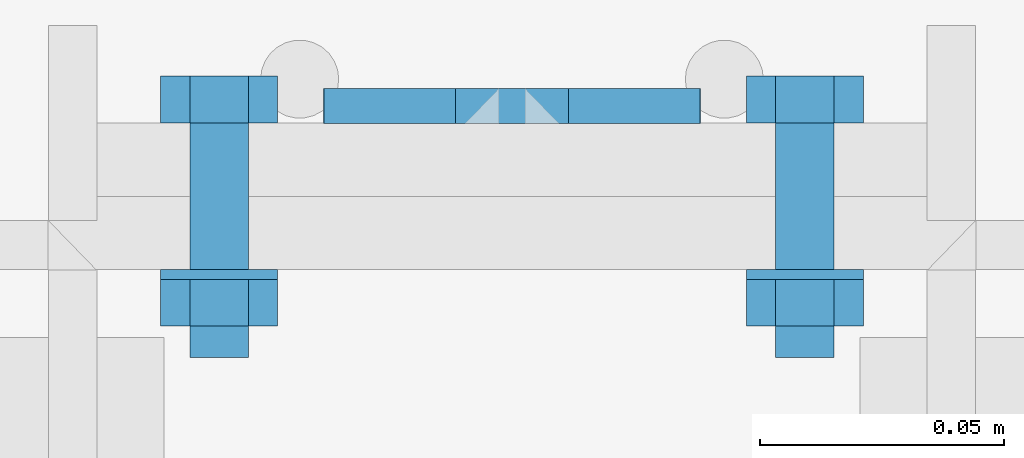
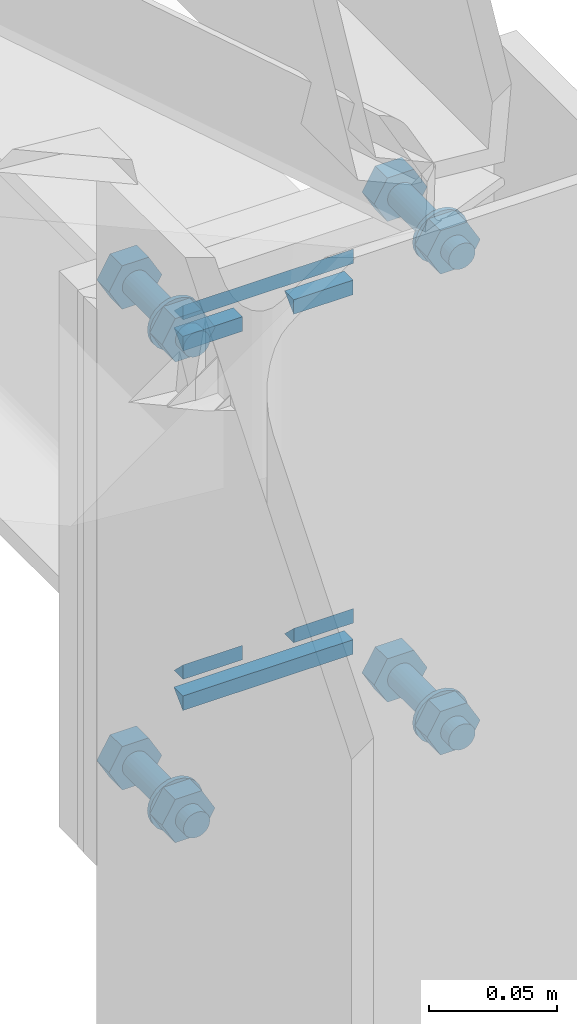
# One storey, part 98 of 251: 16 mechanical fasteners, 12 fasteners.
"""IFC4 building model written with IfcOpenShell, lengths in metres."""

from ifc_helpers import new_model, si_unit, frame, origin_with_axes, place, context, project, spatial, polyline, outline, extrude, type_object, element, save


model = new_model("IFC4")

# Units and contexts
model_context = context("Model", 3, precision=1e-05, world=origin_with_axes())
ifc_project = project(units=[si_unit("LENGTHUNIT", "METRE"), si_unit("AREAUNIT", "SQUARE_METRE"), si_unit("VOLUMEUNIT", "CUBIC_METRE"), si_unit("MASSUNIT", "GRAM", prefix="KILO"), si_unit("TIMEUNIT", "SECOND"), si_unit("PLANEANGLEUNIT", "RADIAN"), si_unit("SOLIDANGLEUNIT", "STERADIAN"), si_unit("THERMODYNAMICTEMPERATUREUNIT", "DEGREE_CELSIUS")], contexts=[model_context])

# Site, building, storey
placement_1 = place(None, origin_with_axes())
site = spatial("IfcSite", under=ifc_project, at=placement_1, Name="Italia", CompositionType="ELEMENT")
building = spatial("IfcBuilding", under=site, at=placement_1, Name="Deposito", CompositionType="ELEMENT")
storey = spatial("IfcBuildingStorey", under=building, at=placement_1, Name="Storey 0", CompositionType="ELEMENT", Elevation=0.0)

# Fasteners
fastener_type_1 = type_object("IfcFastenerType", Name="Collegamenti -064_-065 -065_-064 -065_-066 -066_-065 -066_-067 -067_-066 -067_-068 -068_-067", PredefinedType="WELD")
placement_2 = place(placement_1, origin_with_axes())
fastener_1_placement = place(placement_2, origin_with_axes())
element("IfcFastener", 1, at=fastener_1_placement, inside=storey, type_object=fastener_type_1, Name="Collegamenti -064_-065 -065_-064 -065_-066 -066_-065 -066_-067 -067_-066 -067_-068 -068_-067", context=model_context, shape_type="SweptSolid", body=[
    extrude(outline(polyline([(0.0, 0.0), (0.00717336, -0.00695801), (0.0, -0.00695801), (0.0, 0.0)])), frame((19.9615, 0.12995, 5.89691), z_axis=(1.0, 0.0, 0.0), x_axis=(0.0, 1.0, 0.0)), (0.0, 0.0, 1.0), 0.0770988),
])
fastener_type_2 = type_object("IfcFastenerType", Name="Collegamenti -064_-065 -065_-064 -065_-066 -066_-065 -066_-067 -067_-066 -067_-068 -068_-067", PredefinedType="WELD")
fastener_2_placement = place(placement_2, origin_with_axes())
element("IfcFastener", 2, at=fastener_2_placement, inside=storey, type_object=fastener_type_2, Name="Collegamenti -064_-065 -065_-064 -065_-066 -066_-065 -066_-067 -067_-066 -067_-068 -068_-067", context=model_context, shape_type="SweptSolid", body=[
    extrude(outline(polyline([(0.0, 0.0), (-0.00717336, 0.00695801), (0.0, 0.00695801), (0.0, 0.0)])), frame((19.9884, 0.12995, 5.87509), z_axis=(-1.0, 0.0, 0.0), x_axis=(0.0, -1.0, 0.0)), (0.0, 0.0, 1.0), 0.0269508),
])
fastener_type_3 = type_object("IfcFastenerType", Name="Collegamenti -064_-065 -065_-064 -065_-066 -066_-065 -066_-067 -067_-066 -067_-068 -068_-067", PredefinedType="WELD")
fastener_3_placement = place(placement_2, origin_with_axes())
element("IfcFastener", 3, at=fastener_3_placement, inside=storey, type_object=fastener_type_3, Name="Collegamenti -064_-065 -065_-064 -065_-066 -066_-065 -066_-067 -067_-066 -067_-068 -068_-067", context=model_context, shape_type="SweptSolid", body=[
    extrude(outline(polyline([(0.0, 0.0), (0.00717336, -0.00695801), (0.0, -0.00695801), (0.0, 0.0)])), frame((19.9615, 0.12995, 5.72491), z_axis=(1.0, 0.0, 0.0), x_axis=(0.0, 1.0, 0.0)), (0.0, 0.0, 1.0), 0.0269508),
])
fastener_type_4 = type_object("IfcFastenerType", Name="Collegamenti -064_-065 -065_-064 -065_-066 -066_-065 -066_-067 -067_-066 -067_-068 -068_-067", PredefinedType="WELD")
fastener_4_placement = place(placement_2, origin_with_axes())
element("IfcFastener", 4, at=fastener_4_placement, inside=storey, type_object=fastener_type_4, Name="Collegamenti -064_-065 -065_-064 -065_-066 -066_-065 -066_-067 -067_-066 -067_-068 -068_-067", context=model_context, shape_type="SweptSolid", body=[
    extrude(outline(polyline([(0.0, 0.0), (-0.00717336, 0.00695801), (0.0, 0.00695801), (0.0, 0.0)])), frame((20.0385, 0.12995, 5.70309), z_axis=(-1.0, 0.0, 0.0), x_axis=(0.0, -1.0, 0.0)), (0.0, 0.0, 1.0), 0.0770988),
])
fastener_type_5 = type_object("IfcFastenerType", Name="Collegamenti -064_-065 -065_-064 -065_-066 -066_-065 -066_-067 -067_-066 -067_-068 -068_-067", PredefinedType="WELD")
fastener_5_placement = place(placement_2, origin_with_axes())
element("IfcFastener", 5, at=fastener_5_placement, inside=storey, type_object=fastener_type_5, Name="Collegamenti -064_-065 -065_-064 -065_-066 -066_-065 -066_-067 -067_-066 -067_-068 -068_-067", context=model_context, shape_type="SweptSolid", body=[
    extrude(outline(polyline([(0.0, 0.0), (0.00717336, -0.00695801), (0.0, -0.00695801), (0.0, 0.0)])), frame((20.0116, 0.12995, 5.72491), z_axis=(1.0, 0.0, 0.0), x_axis=(0.0, 1.0, 0.0)), (0.0, 0.0, 1.0), 0.0269508),
])
fastener_type_6 = type_object("IfcFastenerType", Name="Collegamenti -064_-065 -065_-064 -065_-066 -066_-065 -066_-067 -067_-066 -067_-068 -068_-067", PredefinedType="WELD")
fastener_6_placement = place(placement_2, origin_with_axes())
element("IfcFastener", 6, at=fastener_6_placement, inside=storey, type_object=fastener_type_6, Name="Collegamenti -064_-065 -065_-064 -065_-066 -066_-065 -066_-067 -067_-066 -067_-068 -068_-067", context=model_context, shape_type="SweptSolid", body=[
    extrude(outline(polyline([(0.0, 0.0), (-0.00717336, 0.00695801), (0.0, 0.00695801), (0.0, 0.0)])), frame((20.0385, 0.12995, 5.87509), z_axis=(-1.0, 0.0, 0.0), x_axis=(0.0, -1.0, 0.0)), (0.0, 0.0, 1.0), 0.0269508),
])
fastener_type_7 = type_object("IfcFastenerType", Name="Collegamenti -064_-065 -065_-064 -065_-066 -066_-065 -066_-067 -067_-066 -067_-068 -068_-067", PredefinedType="WELD")
fastener_7_placement = place(placement_2, origin_with_axes())
element("IfcFastener", 7, at=fastener_7_placement, inside=storey, type_object=fastener_type_7, Name="Collegamenti -064_-065 -065_-064 -065_-066 -066_-065 -066_-067 -067_-066 -067_-068 -068_-067", context=model_context, shape_type="SweptSolid", body=[
    extrude(outline(polyline([(0.0, 0.0), (0.00717336, -0.00695801), (0.0, -0.00695801), (0.0, 0.0)])), frame((19.9615, 0.12995, 5.89691), z_axis=(1.0, 0.0, 0.0), x_axis=(0.0, 1.0, 0.0)), (0.0, 0.0, 1.0), 0.0770988),
])
fastener_type_8 = type_object("IfcFastenerType", Name="Collegamenti -064_-065 -065_-064 -065_-066 -066_-065 -066_-067 -067_-066 -067_-068 -068_-067", PredefinedType="WELD")
fastener_8_placement = place(placement_2, origin_with_axes())
element("IfcFastener", 8, at=fastener_8_placement, inside=storey, type_object=fastener_type_8, Name="Collegamenti -064_-065 -065_-064 -065_-066 -066_-065 -066_-067 -067_-066 -067_-068 -068_-067", context=model_context, shape_type="SweptSolid", body=[
    extrude(outline(polyline([(0.0, 0.0), (-0.00717336, 0.00695801), (0.0, 0.00695801), (0.0, 0.0)])), frame((19.9884, 0.12995, 5.87509), z_axis=(-1.0, 0.0, 0.0), x_axis=(0.0, -1.0, 0.0)), (0.0, 0.0, 1.0), 0.0269508),
])
fastener_type_9 = type_object("IfcFastenerType", Name="Collegamenti -064_-065 -065_-064 -065_-066 -066_-065 -066_-067 -067_-066 -067_-068 -068_-067", PredefinedType="WELD")
fastener_9_placement = place(placement_2, origin_with_axes())
element("IfcFastener", 9, at=fastener_9_placement, inside=storey, type_object=fastener_type_9, Name="Collegamenti -064_-065 -065_-064 -065_-066 -066_-065 -066_-067 -067_-066 -067_-068 -068_-067", context=model_context, shape_type="SweptSolid", body=[
    extrude(outline(polyline([(0.0, 0.0), (0.00717336, -0.00695801), (0.0, -0.00695801), (0.0, 0.0)])), frame((19.9615, 0.12995, 5.72491), z_axis=(1.0, 0.0, 0.0), x_axis=(0.0, 1.0, 0.0)), (0.0, 0.0, 1.0), 0.0269508),
])
fastener_type_10 = type_object("IfcFastenerType", Name="Collegamenti -064_-065 -065_-064 -065_-066 -066_-065 -066_-067 -067_-066 -067_-068 -068_-067", PredefinedType="WELD")
fastener_10_placement = place(placement_2, origin_with_axes())
element("IfcFastener", 10, at=fastener_10_placement, inside=storey, type_object=fastener_type_10, Name="Collegamenti -064_-065 -065_-064 -065_-066 -066_-065 -066_-067 -067_-066 -067_-068 -068_-067", context=model_context, shape_type="SweptSolid", body=[
    extrude(outline(polyline([(0.0, 0.0), (-0.00717336, 0.00695801), (0.0, 0.00695801), (0.0, 0.0)])), frame((20.0385, 0.12995, 5.70309), z_axis=(-1.0, 0.0, 0.0), x_axis=(0.0, -1.0, 0.0)), (0.0, 0.0, 1.0), 0.0770988),
])
fastener_type_11 = type_object("IfcFastenerType", Name="Collegamenti -064_-065 -065_-064 -065_-066 -066_-065 -066_-067 -067_-066 -067_-068 -068_-067", PredefinedType="WELD")
fastener_11_placement = place(placement_2, origin_with_axes())
element("IfcFastener", 11, at=fastener_11_placement, inside=storey, type_object=fastener_type_11, Name="Collegamenti -064_-065 -065_-064 -065_-066 -066_-065 -066_-067 -067_-066 -067_-068 -068_-067", context=model_context, shape_type="SweptSolid", body=[
    extrude(outline(polyline([(0.0, 0.0), (0.00717336, -0.00695801), (0.0, -0.00695801), (0.0, 0.0)])), frame((20.0116, 0.12995, 5.72491), z_axis=(1.0, 0.0, 0.0), x_axis=(0.0, 1.0, 0.0)), (0.0, 0.0, 1.0), 0.0269508),
])
fastener_type_12 = type_object("IfcFastenerType", Name="Collegamenti -064_-065 -065_-064 -065_-066 -066_-065 -066_-067 -067_-066 -067_-068 -068_-067", PredefinedType="WELD")
fastener_12_placement = place(placement_2, origin_with_axes())
element("IfcFastener", 12, at=fastener_12_placement, inside=storey, type_object=fastener_type_12, Name="Collegamenti -064_-065 -065_-064 -065_-066 -066_-065 -066_-067 -067_-066 -067_-068 -068_-067", context=model_context, shape_type="SweptSolid", body=[
    extrude(outline(polyline([(0.0, 0.0), (-0.00717336, 0.00695801), (0.0, 0.00695801), (0.0, 0.0)])), frame((20.0385, 0.12995, 5.87509), z_axis=(-1.0, 0.0, 0.0), x_axis=(0.0, -1.0, 0.0)), (0.0, 0.0, 1.0), 0.0269508),
])

# Mechanical fasteners
mechanical_fastener_type_1 = type_object("IfcMechanicalFastenerType", Name="Collegamenti -064_-065 -065_-064 -065_-066 -066_-065 -066_-067 -067_-066 -067_-068 -068_-067", PredefinedType="BOLT")
mechanical_fastener_1_placement = place(placement_2, origin_with_axes())
element("IfcMechanicalFastener", 13, at=mechanical_fastener_1_placement, inside=storey, type_object=mechanical_fastener_type_1, Name="Collegamenti -064_-065 -065_-064 -065_-066 -066_-065 -066_-067 -067_-066 -067_-068 -068_-067", NominalDiameter=0.0119991, context=model_context, shape_type="SweptSolid", body=[
    extrude(outline(polyline([(0.0, 0.0), (-0.0119991, 0.0), (-0.0179996, 0.0103927), (-0.0119991, 0.0207849), (0.0, 0.0207849), (0.00600052, 0.0103927), (0.0, 0.0)])), frame((20.054, 0.13, 5.67461), z_axis=(0.0, 1.0, 0.0), x_axis=(-1.0, 0.0, 0.0)), (0.0, 0.0, 1.0), 0.00960001),
])
mechanical_fastener_type_2 = type_object("IfcMechanicalFastenerType", Name="Collegamenti -064_-065 -065_-064 -065_-066 -066_-065 -066_-067 -067_-066 -067_-068 -068_-067", PredefinedType="BOLT")
mechanical_fastener_2_placement = place(placement_2, origin_with_axes())
element("IfcMechanicalFastener", 14, at=mechanical_fastener_2_placement, inside=storey, type_object=mechanical_fastener_type_2, Name="Collegamenti -064_-065 -065_-064 -065_-066 -066_-065 -066_-067 -067_-066 -067_-068 -068_-067", NominalDiameter=0.012, context=model_context, shape_type="SweptSolid", body=[
    extrude(outline(polyline([(0.0, 0.0), (-0.000204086, -0.00155306), (-0.000804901, -0.00299978), (-0.00175858, -0.00424242), (-0.00300026, -0.00519609), (-0.00444794, -0.00579548), (-0.00600052, -0.00600004), (-0.0075531, -0.00579548), (-0.00900078, -0.00519609), (-0.0102425, -0.00424242), (-0.0111961, -0.00299978), (-0.011797, -0.00155306), (-0.012001, 0.0), (-0.011797, 0.00155306), (-0.0111961, 0.00299978), (-0.0102425, 0.00424242), (-0.00900078, 0.00519609), (-0.0075531, 0.00579548), (-0.00600052, 0.00600004), (-0.00444794, 0.00579548), (-0.00300026, 0.00519609), (-0.00175858, 0.00424242), (-0.000804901, 0.00299978), (-0.000204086, 0.00155306), (0.0, 0.0)])), frame((20.054, 0.082, 5.685), z_axis=(0.0, 1.0, 0.0), x_axis=(-1.0, 0.0, 0.0)), (0.0, 0.0, 1.0), 0.048),
])
mechanical_fastener_type_3 = type_object("IfcMechanicalFastenerType", Name="Collegamenti -064_-065 -065_-064 -065_-066 -066_-065 -066_-067 -067_-066 -067_-068 -068_-067", PredefinedType="BOLT")
mechanical_fastener_3_placement = place(placement_2, origin_with_axes())
element("IfcMechanicalFastener", 15, at=mechanical_fastener_3_placement, inside=storey, type_object=mechanical_fastener_type_3, Name="Collegamenti -064_-065 -065_-064 -065_-066 -066_-065 -066_-067 -067_-066 -067_-068 -068_-067", NominalDiameter=0.0119991, context=model_context, shape_type="SweptSolid", body=[
    extrude(outline(polyline([(0.0, 0.0), (-0.0119991, 0.0), (-0.0179996, 0.0103927), (-0.0119991, 0.0207849), (0.0, 0.0207849), (0.00600052, 0.0103927), (0.0, 0.0)])), frame((20.054, 0.0884, 5.67461), z_axis=(0.0, 1.0, 0.0), x_axis=(-1.0, 0.0, 0.0)), (0.0, 0.0, 1.0), 0.00960001),
])
mechanical_fastener_type_4 = type_object("IfcMechanicalFastenerType", Name="Collegamenti -064_-065 -065_-064 -065_-066 -066_-065 -066_-067 -067_-066 -067_-068 -068_-067", PredefinedType="BOLT")
mechanical_fastener_4_placement = place(placement_2, origin_with_axes())
element("IfcMechanicalFastener", 16, at=mechanical_fastener_4_placement, inside=storey, type_object=mechanical_fastener_type_4, Name="Collegamenti -064_-065 -065_-064 -065_-066 -066_-065 -066_-067 -067_-066 -067_-068 -068_-067", NominalDiameter=0.024, context=model_context, shape_type="SweptSolid", body=[
    extrude(outline(polyline([(0.0, 0.0), (-0.000408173, -0.00310564), (-0.00160599, -0.00600004), (-0.00351334, -0.00848532), (-0.00599861, -0.0103922), (-0.00889397, -0.011591), (-0.0119991, -0.0120001), (-0.0151043, -0.011591), (-0.0179996, -0.0103922), (-0.0204849, -0.00848532), (-0.0223923, -0.00600004), (-0.0235901, -0.00310564), (-0.0239983, 0.0), (-0.0235901, 0.00310564), (-0.0223923, 0.00600004), (-0.0204849, 0.00848532), (-0.0179996, 0.0103922), (-0.0151043, 0.011591), (-0.0119991, 0.0120001), (-0.00889397, 0.011591), (-0.00599861, 0.0103922), (-0.00351334, 0.00848532), (-0.00160599, 0.00600004), (-0.000408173, 0.00310564), (0.0, 0.0)])), frame((20.048, 0.098, 5.685), z_axis=(0.0, 1.0, 0.0), x_axis=(-1.0, 0.0, 0.0)), (0.0, 0.0, 1.0), 0.002),
])
mechanical_fastener_type_5 = type_object("IfcMechanicalFastenerType", Name="Collegamenti -064_-065 -065_-064 -065_-066 -066_-065 -066_-067 -067_-066 -067_-068 -068_-067", PredefinedType="BOLT")
mechanical_fastener_5_placement = place(placement_2, origin_with_axes())
element("IfcMechanicalFastener", 17, at=mechanical_fastener_5_placement, inside=storey, type_object=mechanical_fastener_type_5, Name="Collegamenti -064_-065 -065_-064 -065_-066 -066_-065 -066_-067 -067_-066 -067_-068 -068_-067", NominalDiameter=0.0119991, context=model_context, shape_type="SweptSolid", body=[
    extrude(outline(polyline([(0.0, 0.0), (-0.0119991, 0.0), (-0.0179996, 0.0103927), (-0.0119991, 0.0207849), (0.0, 0.0207849), (0.00600052, 0.0103927), (0.0, 0.0)])), frame((19.934, 0.13, 5.67461), z_axis=(0.0, 1.0, 0.0), x_axis=(-1.0, 0.0, 0.0)), (0.0, 0.0, 1.0), 0.00960001),
])
mechanical_fastener_type_6 = type_object("IfcMechanicalFastenerType", Name="Collegamenti -064_-065 -065_-064 -065_-066 -066_-065 -066_-067 -067_-066 -067_-068 -068_-067", PredefinedType="BOLT")
mechanical_fastener_6_placement = place(placement_2, origin_with_axes())
element("IfcMechanicalFastener", 18, at=mechanical_fastener_6_placement, inside=storey, type_object=mechanical_fastener_type_6, Name="Collegamenti -064_-065 -065_-064 -065_-066 -066_-065 -066_-067 -067_-066 -067_-068 -068_-067", NominalDiameter=0.012, context=model_context, shape_type="SweptSolid", body=[
    extrude(outline(polyline([(0.0, 0.0), (-0.000204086, -0.00155306), (-0.000804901, -0.00299978), (-0.00175858, -0.00424242), (-0.00300026, -0.00519609), (-0.00444794, -0.00579548), (-0.00600052, -0.00600004), (-0.0075531, -0.00579548), (-0.00900078, -0.00519609), (-0.0102425, -0.00424242), (-0.0111961, -0.00299978), (-0.011797, -0.00155306), (-0.012001, 0.0), (-0.011797, 0.00155306), (-0.0111961, 0.00299978), (-0.0102425, 0.00424242), (-0.00900078, 0.00519609), (-0.0075531, 0.00579548), (-0.00600052, 0.00600004), (-0.00444794, 0.00579548), (-0.00300026, 0.00519609), (-0.00175858, 0.00424242), (-0.000804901, 0.00299978), (-0.000204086, 0.00155306), (0.0, 0.0)])), frame((19.934, 0.082, 5.685), z_axis=(0.0, 1.0, 0.0), x_axis=(-1.0, 0.0, 0.0)), (0.0, 0.0, 1.0), 0.048),
])
mechanical_fastener_type_7 = type_object("IfcMechanicalFastenerType", Name="Collegamenti -064_-065 -065_-064 -065_-066 -066_-065 -066_-067 -067_-066 -067_-068 -068_-067", PredefinedType="BOLT")
mechanical_fastener_7_placement = place(placement_2, origin_with_axes())
element("IfcMechanicalFastener", 19, at=mechanical_fastener_7_placement, inside=storey, type_object=mechanical_fastener_type_7, Name="Collegamenti -064_-065 -065_-064 -065_-066 -066_-065 -066_-067 -067_-066 -067_-068 -068_-067", NominalDiameter=0.0119991, context=model_context, shape_type="SweptSolid", body=[
    extrude(outline(polyline([(0.0, 0.0), (-0.0119991, 0.0), (-0.0179996, 0.0103927), (-0.0119991, 0.0207849), (0.0, 0.0207849), (0.00600052, 0.0103927), (0.0, 0.0)])), frame((19.934, 0.0884, 5.67461), z_axis=(0.0, 1.0, 0.0), x_axis=(-1.0, 0.0, 0.0)), (0.0, 0.0, 1.0), 0.00960001),
])
mechanical_fastener_type_8 = type_object("IfcMechanicalFastenerType", Name="Collegamenti -064_-065 -065_-064 -065_-066 -066_-065 -066_-067 -067_-066 -067_-068 -068_-067", PredefinedType="BOLT")
mechanical_fastener_8_placement = place(placement_2, origin_with_axes())
element("IfcMechanicalFastener", 20, at=mechanical_fastener_8_placement, inside=storey, type_object=mechanical_fastener_type_8, Name="Collegamenti -064_-065 -065_-064 -065_-066 -066_-065 -066_-067 -067_-066 -067_-068 -068_-067", NominalDiameter=0.024, context=model_context, shape_type="SweptSolid", body=[
    extrude(outline(polyline([(0.0, 0.0), (-0.000408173, -0.00310564), (-0.00160599, -0.00600004), (-0.00351334, -0.00848532), (-0.00599861, -0.0103922), (-0.00889397, -0.011591), (-0.0119991, -0.0120001), (-0.0151043, -0.011591), (-0.0179996, -0.0103922), (-0.0204849, -0.00848532), (-0.0223923, -0.00600004), (-0.0235901, -0.00310564), (-0.0239983, 0.0), (-0.0235901, 0.00310564), (-0.0223923, 0.00600004), (-0.0204849, 0.00848532), (-0.0179996, 0.0103922), (-0.0151043, 0.011591), (-0.0119991, 0.0120001), (-0.00889397, 0.011591), (-0.00599861, 0.0103922), (-0.00351334, 0.00848532), (-0.00160599, 0.00600004), (-0.000408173, 0.00310564), (0.0, 0.0)])), frame((19.928, 0.098, 5.685), z_axis=(0.0, 1.0, 0.0), x_axis=(-1.0, 0.0, 0.0)), (0.0, 0.0, 1.0), 0.002),
])
mechanical_fastener_type_9 = type_object("IfcMechanicalFastenerType", Name="Collegamenti -064_-065 -065_-064 -065_-066 -066_-065 -066_-067 -067_-066 -067_-068 -068_-067", PredefinedType="BOLT")
mechanical_fastener_9_placement = place(placement_2, origin_with_axes())
element("IfcMechanicalFastener", 21, at=mechanical_fastener_9_placement, inside=storey, type_object=mechanical_fastener_type_9, Name="Collegamenti -064_-065 -065_-064 -065_-066 -066_-065 -066_-067 -067_-066 -067_-068 -068_-067", NominalDiameter=0.0119991, context=model_context, shape_type="SweptSolid", body=[
    extrude(outline(polyline([(0.0, 0.0), (-0.0119991, 0.0), (-0.0179996, 0.0103922), (-0.0119991, 0.0207849), (0.0, 0.0207849), (0.00600052, 0.0103922), (0.0, 0.0)])), frame((20.054, 0.13, 5.90461), z_axis=(0.0, 1.0, 0.0), x_axis=(-1.0, 0.0, 0.0)), (0.0, 0.0, 1.0), 0.00960001),
])
mechanical_fastener_type_10 = type_object("IfcMechanicalFastenerType", Name="Collegamenti -064_-065 -065_-064 -065_-066 -066_-065 -066_-067 -067_-066 -067_-068 -068_-067", PredefinedType="BOLT")
mechanical_fastener_10_placement = place(placement_2, origin_with_axes())
element("IfcMechanicalFastener", 22, at=mechanical_fastener_10_placement, inside=storey, type_object=mechanical_fastener_type_10, Name="Collegamenti -064_-065 -065_-064 -065_-066 -066_-065 -066_-067 -067_-066 -067_-068 -068_-067", NominalDiameter=0.012, context=model_context, shape_type="SweptSolid", body=[
    extrude(outline(polyline([(0.0, 0.0), (-0.000204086, -0.00155306), (-0.000804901, -0.00299978), (-0.00175858, -0.00424242), (-0.00300026, -0.00519609), (-0.00444794, -0.00579548), (-0.00600052, -0.00600004), (-0.0075531, -0.00579548), (-0.00900078, -0.00519609), (-0.0102425, -0.00424242), (-0.0111961, -0.00299978), (-0.011797, -0.00155306), (-0.012001, 0.0), (-0.011797, 0.00155306), (-0.0111961, 0.00299978), (-0.0102425, 0.00424242), (-0.00900078, 0.00519609), (-0.0075531, 0.00579548), (-0.00600052, 0.00600004), (-0.00444794, 0.00579548), (-0.00300026, 0.00519609), (-0.00175858, 0.00424242), (-0.000804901, 0.00299978), (-0.000204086, 0.00155306), (0.0, 0.0)])), frame((20.054, 0.082, 5.915), z_axis=(0.0, 1.0, 0.0), x_axis=(-1.0, 0.0, 0.0)), (0.0, 0.0, 1.0), 0.048),
])
mechanical_fastener_type_11 = type_object("IfcMechanicalFastenerType", Name="Collegamenti -064_-065 -065_-064 -065_-066 -066_-065 -066_-067 -067_-066 -067_-068 -068_-067", PredefinedType="BOLT")
mechanical_fastener_11_placement = place(placement_2, origin_with_axes())
element("IfcMechanicalFastener", 23, at=mechanical_fastener_11_placement, inside=storey, type_object=mechanical_fastener_type_11, Name="Collegamenti -064_-065 -065_-064 -065_-066 -066_-065 -066_-067 -067_-066 -067_-068 -068_-067", NominalDiameter=0.0119991, context=model_context, shape_type="SweptSolid", body=[
    extrude(outline(polyline([(0.0, 0.0), (-0.0119991, 0.0), (-0.0179996, 0.0103922), (-0.0119991, 0.0207849), (0.0, 0.0207849), (0.00600052, 0.0103922), (0.0, 0.0)])), frame((20.054, 0.0884, 5.90461), z_axis=(0.0, 1.0, 0.0), x_axis=(-1.0, 0.0, 0.0)), (0.0, 0.0, 1.0), 0.00960001),
])
mechanical_fastener_type_12 = type_object("IfcMechanicalFastenerType", Name="Collegamenti -064_-065 -065_-064 -065_-066 -066_-065 -066_-067 -067_-066 -067_-068 -068_-067", PredefinedType="BOLT")
mechanical_fastener_12_placement = place(placement_2, origin_with_axes())
element("IfcMechanicalFastener", 24, at=mechanical_fastener_12_placement, inside=storey, type_object=mechanical_fastener_type_12, Name="Collegamenti -064_-065 -065_-064 -065_-066 -066_-065 -066_-067 -067_-066 -067_-068 -068_-067", NominalDiameter=0.024, context=model_context, shape_type="SweptSolid", body=[
    extrude(outline(polyline([(0.0, 0.0), (-0.000408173, -0.00310564), (-0.00160599, -0.00600004), (-0.00351334, -0.00848532), (-0.00599861, -0.0103922), (-0.00889397, -0.011591), (-0.0119991, -0.0120001), (-0.0151043, -0.011591), (-0.0179996, -0.0103922), (-0.0204849, -0.00848532), (-0.0223923, -0.00600004), (-0.0235901, -0.00310564), (-0.0239983, 0.0), (-0.0235901, 0.00310564), (-0.0223923, 0.00600004), (-0.0204849, 0.00848532), (-0.0179996, 0.0103922), (-0.0151043, 0.011591), (-0.0119991, 0.0120001), (-0.00889397, 0.011591), (-0.00599861, 0.0103922), (-0.00351334, 0.00848532), (-0.00160599, 0.00600004), (-0.000408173, 0.00310564), (0.0, 0.0)])), frame((20.048, 0.098, 5.915), z_axis=(0.0, 1.0, 0.0), x_axis=(-1.0, 0.0, 0.0)), (0.0, 0.0, 1.0), 0.002),
])
mechanical_fastener_type_13 = type_object("IfcMechanicalFastenerType", Name="Collegamenti -064_-065 -065_-064 -065_-066 -066_-065 -066_-067 -067_-066 -067_-068 -068_-067", PredefinedType="BOLT")
mechanical_fastener_13_placement = place(placement_2, origin_with_axes())
element("IfcMechanicalFastener", 25, at=mechanical_fastener_13_placement, inside=storey, type_object=mechanical_fastener_type_13, Name="Collegamenti -064_-065 -065_-064 -065_-066 -066_-065 -066_-067 -067_-066 -067_-068 -068_-067", NominalDiameter=0.0119991, context=model_context, shape_type="SweptSolid", body=[
    extrude(outline(polyline([(0.0, 0.0), (-0.0119991, 0.0), (-0.0179996, 0.0103922), (-0.0119991, 0.0207849), (0.0, 0.0207849), (0.00600052, 0.0103922), (0.0, 0.0)])), frame((19.934, 0.13, 5.90461), z_axis=(0.0, 1.0, 0.0), x_axis=(-1.0, 0.0, 0.0)), (0.0, 0.0, 1.0), 0.00960001),
])
mechanical_fastener_type_14 = type_object("IfcMechanicalFastenerType", Name="Collegamenti -064_-065 -065_-064 -065_-066 -066_-065 -066_-067 -067_-066 -067_-068 -068_-067", PredefinedType="BOLT")
mechanical_fastener_14_placement = place(placement_2, origin_with_axes())
element("IfcMechanicalFastener", 26, at=mechanical_fastener_14_placement, inside=storey, type_object=mechanical_fastener_type_14, Name="Collegamenti -064_-065 -065_-064 -065_-066 -066_-065 -066_-067 -067_-066 -067_-068 -068_-067", NominalDiameter=0.012, context=model_context, shape_type="SweptSolid", body=[
    extrude(outline(polyline([(0.0, 0.0), (-0.000204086, -0.00155306), (-0.000804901, -0.00299978), (-0.00175858, -0.00424242), (-0.00300026, -0.00519609), (-0.00444794, -0.00579548), (-0.00600052, -0.00600004), (-0.0075531, -0.00579548), (-0.00900078, -0.00519609), (-0.0102425, -0.00424242), (-0.0111961, -0.00299978), (-0.011797, -0.00155306), (-0.012001, 0.0), (-0.011797, 0.00155306), (-0.0111961, 0.00299978), (-0.0102425, 0.00424242), (-0.00900078, 0.00519609), (-0.0075531, 0.00579548), (-0.00600052, 0.00600004), (-0.00444794, 0.00579548), (-0.00300026, 0.00519609), (-0.00175858, 0.00424242), (-0.000804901, 0.00299978), (-0.000204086, 0.00155306), (0.0, 0.0)])), frame((19.934, 0.082, 5.915), z_axis=(0.0, 1.0, 0.0), x_axis=(-1.0, 0.0, 0.0)), (0.0, 0.0, 1.0), 0.048),
])
mechanical_fastener_type_15 = type_object("IfcMechanicalFastenerType", Name="Collegamenti -064_-065 -065_-064 -065_-066 -066_-065 -066_-067 -067_-066 -067_-068 -068_-067", PredefinedType="BOLT")
mechanical_fastener_15_placement = place(placement_2, origin_with_axes())
element("IfcMechanicalFastener", 27, at=mechanical_fastener_15_placement, inside=storey, type_object=mechanical_fastener_type_15, Name="Collegamenti -064_-065 -065_-064 -065_-066 -066_-065 -066_-067 -067_-066 -067_-068 -068_-067", NominalDiameter=0.0119991, context=model_context, shape_type="SweptSolid", body=[
    extrude(outline(polyline([(0.0, 0.0), (-0.0119991, 0.0), (-0.0179996, 0.0103922), (-0.0119991, 0.0207849), (0.0, 0.0207849), (0.00600052, 0.0103922), (0.0, 0.0)])), frame((19.934, 0.0884, 5.90461), z_axis=(0.0, 1.0, 0.0), x_axis=(-1.0, 0.0, 0.0)), (0.0, 0.0, 1.0), 0.00960001),
])
mechanical_fastener_type_16 = type_object("IfcMechanicalFastenerType", Name="Collegamenti -064_-065 -065_-064 -065_-066 -066_-065 -066_-067 -067_-066 -067_-068 -068_-067", PredefinedType="BOLT")
mechanical_fastener_16_placement = place(placement_2, origin_with_axes())
element("IfcMechanicalFastener", 28, at=mechanical_fastener_16_placement, inside=storey, type_object=mechanical_fastener_type_16, Name="Collegamenti -064_-065 -065_-064 -065_-066 -066_-065 -066_-067 -067_-066 -067_-068 -068_-067", NominalDiameter=0.024, context=model_context, shape_type="SweptSolid", body=[
    extrude(outline(polyline([(0.0, 0.0), (-0.000408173, -0.00310564), (-0.00160599, -0.00600004), (-0.00351334, -0.00848532), (-0.00599861, -0.0103922), (-0.00889397, -0.011591), (-0.0119991, -0.0120001), (-0.0151043, -0.011591), (-0.0179996, -0.0103922), (-0.0204849, -0.00848532), (-0.0223923, -0.00600004), (-0.0235901, -0.00310564), (-0.0239983, 0.0), (-0.0235901, 0.00310564), (-0.0223923, 0.00600004), (-0.0204849, 0.00848532), (-0.0179996, 0.0103922), (-0.0151043, 0.011591), (-0.0119991, 0.0120001), (-0.00889397, 0.011591), (-0.00599861, 0.0103922), (-0.00351334, 0.00848532), (-0.00160599, 0.00600004), (-0.000408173, 0.00310564), (0.0, 0.0)])), frame((19.928, 0.098, 5.915), z_axis=(0.0, 1.0, 0.0), x_axis=(-1.0, 0.0, 0.0)), (0.0, 0.0, 1.0), 0.002),
])

save(model, "model.ifc")
